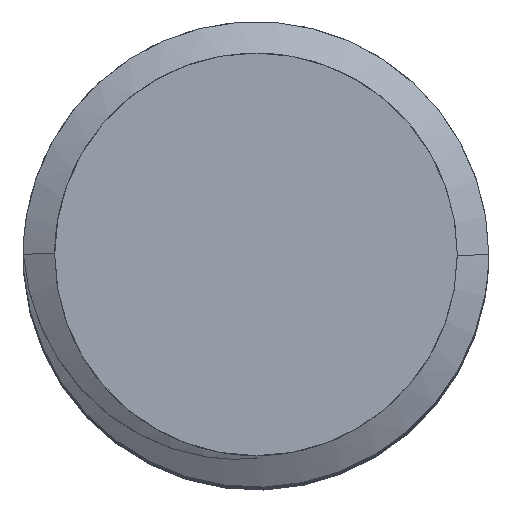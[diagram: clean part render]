
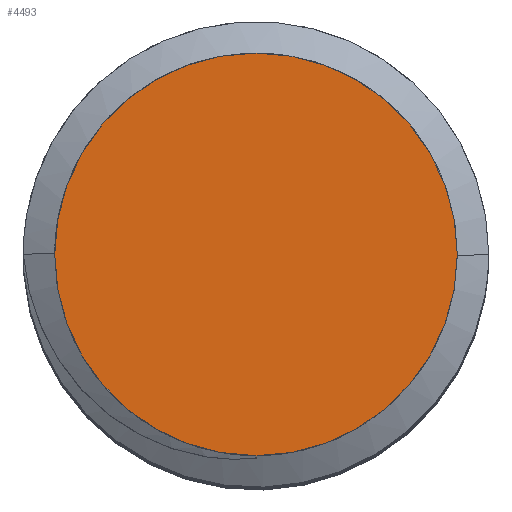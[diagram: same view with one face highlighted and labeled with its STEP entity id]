
A CAD part, top view. The second image highlights one B-rep face of the part: STEP entity #4493.
In plain terms, the highlighted planar face has unit normal (0, 0, 1).
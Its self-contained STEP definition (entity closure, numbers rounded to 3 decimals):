
#91 = CYLINDRICAL_SURFACE('',#92,6.917);
#92 = AXIS2_PLACEMENT_3D('',#93,#94,#95);
#93 = CARTESIAN_POINT('',(0.,0.,0.));
#94 = DIRECTION('',(0.,0.,1.));
#95 = DIRECTION('',(1.,0.,0.));
#1741 = VERTEX_POINT('',#1742);
#1742 = CARTESIAN_POINT('',(6.917,0.,61.));
#1763 = EDGE_CURVE('',#1741,#1741,#1764,.T.);
#1764 = SURFACE_CURVE('',#1765,(#1770,#1777),.PCURVE_S1.);
#1765 = CIRCLE('',#1766,6.917);
#1766 = AXIS2_PLACEMENT_3D('',#1767,#1768,#1769);
#1767 = CARTESIAN_POINT('',(0.,0.,61.));
#1768 = DIRECTION('',(0.,0.,1.));
#1769 = DIRECTION('',(1.,0.,0.));
#1770 = PCURVE('',#91,#1771);
#1771 = DEFINITIONAL_REPRESENTATION('',(#1772),#1776);
#1772 = LINE('',#1773,#1774);
#1773 = CARTESIAN_POINT('',(0.,61.));
#1774 = VECTOR('',#1775,1.);
#1775 = DIRECTION('',(1.,0.));
#1776 = ( GEOMETRIC_REPRESENTATION_CONTEXT(2) 
PARAMETRIC_REPRESENTATION_CONTEXT() REPRESENTATION_CONTEXT('2D SPACE',''
  ) );
#1777 = PCURVE('',#1778,#1783);
#1778 = PLANE('',#1779);
#1779 = AXIS2_PLACEMENT_3D('',#1780,#1781,#1782);
#1780 = CARTESIAN_POINT('',(0.,0.,61.));
#1781 = DIRECTION('',(0.,0.,1.));
#1782 = DIRECTION('',(1.,0.,0.));
#1783 = DEFINITIONAL_REPRESENTATION('',(#1784),#1788);
#1784 = CIRCLE('',#1785,6.917);
#1785 = AXIS2_PLACEMENT_2D('',#1786,#1787);
#1786 = CARTESIAN_POINT('',(0.,0.));
#1787 = DIRECTION('',(1.,0.));
#1788 = ( GEOMETRIC_REPRESENTATION_CONTEXT(2) 
PARAMETRIC_REPRESENTATION_CONTEXT() REPRESENTATION_CONTEXT('2D SPACE',''
  ) );
#4493 = ADVANCED_FACE('',(#4494),#1778,.T.);
#4494 = FACE_BOUND('',#4495,.T.);
#4495 = EDGE_LOOP('',(#4496));
#4496 = ORIENTED_EDGE('',*,*,#1763,.T.);
